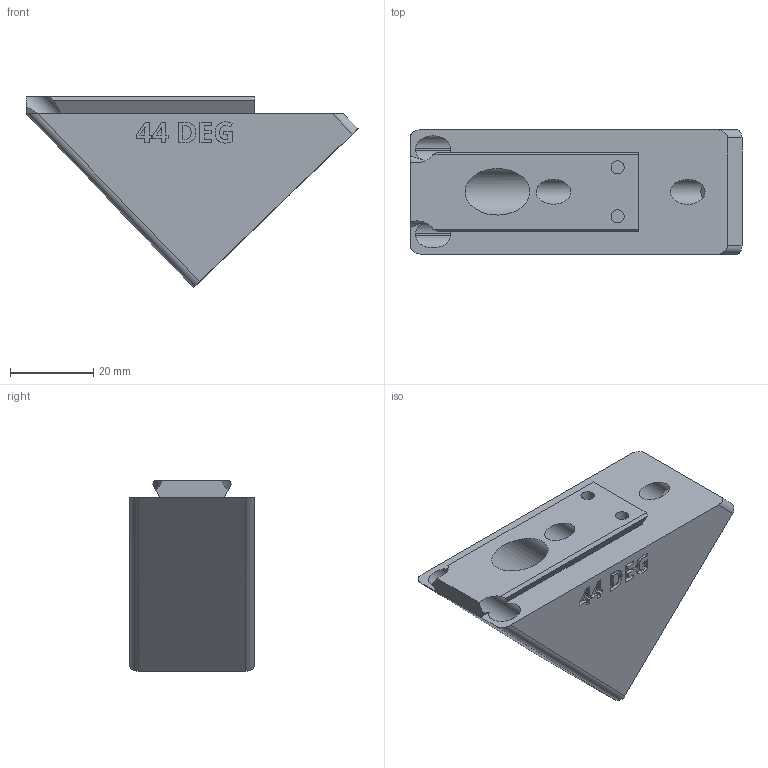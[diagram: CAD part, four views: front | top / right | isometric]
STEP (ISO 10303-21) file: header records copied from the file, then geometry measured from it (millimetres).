
FILE_DESCRIPTION(/* description */ ('STEP AP242 Edition 2','CAx-IF Rec.Pracs.---Representation and Presentation of Product Manufacturing Information (PMI)---4.0---2014-10-13','CAx-IF Rec.Pracs.---3D Tessellated Geometry---0.4---2014-09-14','2;1','CAx-IF Rec.Pracs.---User Defined Attributes---1.5---2016-08-15'),/* implementation_level */ '2;1');
FILE_NAME(/* name */ 'Camera Wedges - CAMERA MOUNTING WEDGE, POS, 44 DEG',/* time_stamp */ '2026-07-08T20:40:37Z',/* author */ (''),/* organization */ (''),/* preprocessor_version */ 'ST-DEVELOPER v20',/* originating_system */ 'ONSHAPE BY PTC INC, 1.217',/* authorisation */ ' ');
FILE_SCHEMA (('AP242_MANAGED_MODEL_BASED_3D_ENGINEERING_MIM_LF { 1 0 10303 442 3 1 4 }'));
Length unit declared in the file: metre
Products named in the file (1): CAMERA MOUNTING WEDGE, POS, 44 DEG
Bounding box: 79.93 x 30 x 45.9 mm (x, y, z)
Volume: 46124.9 mm3; surface area: 14678.3 mm2
Topology: 1 solids, 1 shells, 249 faces, 676 edges, 451 vertices
Faces by surface type: plane 173, cylinder 48, bspline 28
Full cylindrical faces by diameter (mm): 3.2 x4, 6 x2, 6.4 x1, 11.2 x1
Entity records: 7873 total; most frequent: CARTESIAN_POINT 1671, ORIENTED_EDGE 1330, DIRECTION 1161, EDGE_CURVE 665, LINE 501, VECTOR 501, VERTEX_POINT 448, AXIS2_PLACEMENT_3D 330
